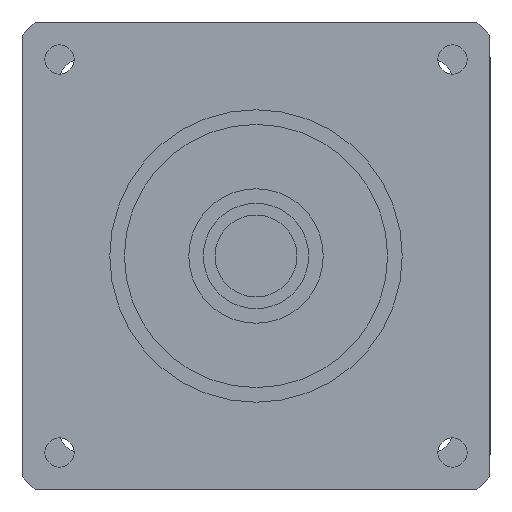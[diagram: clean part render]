
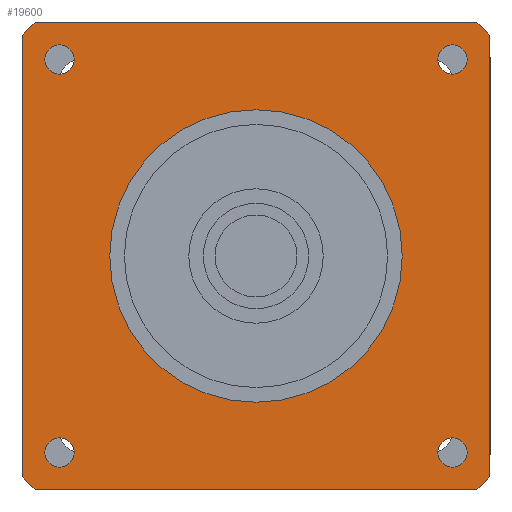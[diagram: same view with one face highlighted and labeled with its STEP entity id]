
A CAD part, left-side view. The second image highlights one B-rep face of the part: STEP entity #19600.
In plain terms, the highlighted planar face has unit normal (-1, 0, 0) as drawn and (0, 0, -1) by its records, which use the part's own axes.
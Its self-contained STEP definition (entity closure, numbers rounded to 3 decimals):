
#13830=CARTESIAN_POINT('',(-40.,-37.749,-42.));
#13840=VERTEX_POINT('',#13830);
#13890=CARTESIAN_POINT('',(-40.,40.,-42.));
#13900=DIRECTION('',(0.,-1.,0.));
#13910=VECTOR('',#13900,1000.);
#13920=LINE('',#13890,#13910);
#13930=CARTESIAN_POINT('',(-40.,37.749,-42.));
#13940=VERTEX_POINT('',#13930);
#13950=EDGE_CURVE('',#13940,#13840,#13920,.T.);
#18060=CARTESIAN_POINT('',(33.588,-31.088,-42.));
#18070=VERTEX_POINT('',#18060);
#18150=CARTESIAN_POINT('',(33.588,-36.088,-42.));
#18160=VERTEX_POINT('',#18150);
#18190=CARTESIAN_POINT('',(33.588,-33.588,-42.));
#18200=DIRECTION('',(0.,0.,1.));
#18210=DIRECTION('',(0.,1.,0.));
#18220=AXIS2_PLACEMENT_3D('',#18190,#18200,#18210);
#18230=CIRCLE('',#18220,2.5);
#18240=EDGE_CURVE('',#18160,#18070,#18230,.T.);
#18290=CARTESIAN_POINT('',(40.,-40.,-42.));
#18300=DIRECTION('',(0.,0.,1.));
#18310=DIRECTION('',(0.,1.,0.));
#18320=AXIS2_PLACEMENT_3D('',#18290,#18300,#18310);
#18330=PLANE('',#18320);
#18340=CARTESIAN_POINT('',(-33.588,-33.588,-42.));
#18350=DIRECTION('',(0.,0.,1.));
#18360=DIRECTION('',(0.,1.,0.));
#18370=AXIS2_PLACEMENT_3D('',#18340,#18350,#18360);
#18380=CIRCLE('',#18370,2.5);
#18390=CARTESIAN_POINT('',(-33.588,-31.088,-42.));
#18400=VERTEX_POINT('',#18390);
#18410=CARTESIAN_POINT('',(-33.588,-36.088,-42.));
#18420=VERTEX_POINT('',#18410);
#18430=EDGE_CURVE('',#18400,#18420,#18380,.T.);
#18440=ORIENTED_EDGE('',*,*,#18430,.T.);
#18450=EDGE_CURVE('',#18420,#18400,#18380,.T.);
#18460=ORIENTED_EDGE('',*,*,#18450,.T.);
#18470=EDGE_LOOP('',(#18460,#18440));
#18480=FACE_BOUND('',#18470,.T.);
#18490=CARTESIAN_POINT('',(33.588,33.588,-42.));
#18500=DIRECTION('',(0.,0.,1.));
#18510=DIRECTION('',(0.,1.,0.));
#18520=AXIS2_PLACEMENT_3D('',#18490,#18500,#18510);
#18530=CIRCLE('',#18520,2.5);
#18540=CARTESIAN_POINT('',(33.588,36.088,-42.));
#18550=VERTEX_POINT('',#18540);
#18560=CARTESIAN_POINT('',(33.588,31.088,-42.));
#18570=VERTEX_POINT('',#18560);
#18580=EDGE_CURVE('',#18550,#18570,#18530,.T.);
#18590=ORIENTED_EDGE('',*,*,#18580,.T.);
#18600=EDGE_CURVE('',#18570,#18550,#18530,.T.);
#18610=ORIENTED_EDGE('',*,*,#18600,.T.);
#18620=EDGE_LOOP('',(#18610,#18590));
#18630=FACE_BOUND('',#18620,.T.);
#18640=CARTESIAN_POINT('',(-33.588,33.588,-42.));
#18650=DIRECTION('',(0.,0.,1.));
#18660=DIRECTION('',(0.,1.,0.));
#18670=AXIS2_PLACEMENT_3D('',#18640,#18650,#18660);
#18680=CIRCLE('',#18670,2.5);
#18690=CARTESIAN_POINT('',(-33.588,36.088,-42.));
#18700=VERTEX_POINT('',#18690);
#18710=CARTESIAN_POINT('',(-33.588,31.088,-42.));
#18720=VERTEX_POINT('',#18710);
#18730=EDGE_CURVE('',#18700,#18720,#18680,.T.);
#18740=ORIENTED_EDGE('',*,*,#18730,.T.);
#18750=EDGE_CURVE('',#18720,#18700,#18680,.T.);
#18760=ORIENTED_EDGE('',*,*,#18750,.T.);
#18770=EDGE_LOOP('',(#18760,#18740));
#18780=FACE_BOUND('',#18770,.T.);
#18790=CARTESIAN_POINT('',(0.,0.,
-42.));
#18800=DIRECTION('',(0.,0.,1.));
#18810=DIRECTION('',(0.,-1.,0.));
#18820=AXIS2_PLACEMENT_3D('',#18790,#18800,#18810);
#18830=CIRCLE('',#18820,25.);
#18840=CARTESIAN_POINT('',(0.,-25.,-42.));
#18850=VERTEX_POINT('',#18840);
#18860=CARTESIAN_POINT('',(0.,25.,-42.));
#18870=VERTEX_POINT('',#18860);
#18880=EDGE_CURVE('',#18850,#18870,#18830,.T.);
#18890=ORIENTED_EDGE('',*,*,#18880,.T.);
#18900=EDGE_CURVE('',#18870,#18850,#18830,.T.);
#18910=ORIENTED_EDGE('',*,*,#18900,.T.);
#18920=EDGE_LOOP('',(#18910,#18890));
#18930=FACE_BOUND('',#18920,.T.);
#18940=EDGE_CURVE('',#18070,#18160,#18230,.T.);
#18950=ORIENTED_EDGE('',*,*,#18940,.T.);
#18960=ORIENTED_EDGE('',*,*,#18240,.T.);
#18970=EDGE_LOOP('',(#18960,#18950));
#18980=FACE_BOUND('',#18970,.T.);
#18990=CARTESIAN_POINT('',(0.,0.,
-42.));
#19000=DIRECTION('',(0.,0.,1.));
#19010=DIRECTION('',(0.,1.,0.));
#19020=AXIS2_PLACEMENT_3D('',#18990,#19000,#19010);
#19030=CIRCLE('',#19020,55.);
#19040=CARTESIAN_POINT('',(-37.749,40.,-42.));
#19050=VERTEX_POINT('',#19040);
#19060=EDGE_CURVE('',#19050,#13940,#19030,.T.);
#19070=ORIENTED_EDGE('',*,*,#19060,.F.);
#19080=ORIENTED_EDGE('',*,*,#13950,.F.);
#19090=CARTESIAN_POINT('',(0.,0.,
-42.));
#19100=DIRECTION('',(0.,0.,1.));
#19110=DIRECTION('',(0.,1.,0.));
#19120=AXIS2_PLACEMENT_3D('',#19090,#19100,#19110);
#19130=CIRCLE('',#19120,55.);
#19140=CARTESIAN_POINT('',(-37.749,-40.,-42.));
#19150=VERTEX_POINT('',#19140);
#19160=EDGE_CURVE('',#13840,#19150,#19130,.T.);
#19170=ORIENTED_EDGE('',*,*,#19160,.F.);
#19180=CARTESIAN_POINT('',(-40.,-40.,-42.));
#19190=DIRECTION('',(1.,0.,0.));
#19200=VECTOR('',#19190,1000.);
#19210=LINE('',#19180,#19200);
#19220=CARTESIAN_POINT('',(37.749,-40.,-42.));
#19230=VERTEX_POINT('',#19220);
#19240=EDGE_CURVE('',#19150,#19230,#19210,.T.);
#19250=ORIENTED_EDGE('',*,*,#19240,.F.);
#19260=CARTESIAN_POINT('',(0.,0.,
-42.));
#19270=DIRECTION('',(0.,0.,1.));
#19280=DIRECTION('',(0.,1.,0.));
#19290=AXIS2_PLACEMENT_3D('',#19260,#19270,#19280);
#19300=CIRCLE('',#19290,55.);
#19310=CARTESIAN_POINT('',(40.,-37.749,-42.));
#19320=VERTEX_POINT('',#19310);
#19330=EDGE_CURVE('',#19230,#19320,#19300,.T.);
#19340=ORIENTED_EDGE('',*,*,#19330,.F.);
#19350=CARTESIAN_POINT('',(40.,-40.,-42.));
#19360=DIRECTION('',(0.,1.,0.));
#19370=VECTOR('',#19360,1000.);
#19380=LINE('',#19350,#19370);
#19390=CARTESIAN_POINT('',(40.,37.749,-42.));
#19400=VERTEX_POINT('',#19390);
#19410=EDGE_CURVE('',#19320,#19400,#19380,.T.);
#19420=ORIENTED_EDGE('',*,*,#19410,.F.);
#19430=CARTESIAN_POINT('',(0.,0.,
-42.));
#19440=DIRECTION('',(0.,0.,1.));
#19450=DIRECTION('',(0.,1.,0.));
#19460=AXIS2_PLACEMENT_3D('',#19430,#19440,#19450);
#19470=CIRCLE('',#19460,55.);
#19480=CARTESIAN_POINT('',(37.749,40.,-42.));
#19490=VERTEX_POINT('',#19480);
#19500=EDGE_CURVE('',#19400,#19490,#19470,.T.);
#19510=ORIENTED_EDGE('',*,*,#19500,.F.);
#19520=CARTESIAN_POINT('',(40.,40.,-42.));
#19530=DIRECTION('',(-1.,0.,0.));
#19540=VECTOR('',#19530,1000.);
#19550=LINE('',#19520,#19540);
#19560=EDGE_CURVE('',#19490,#19050,#19550,.T.);
#19570=ORIENTED_EDGE('',*,*,#19560,.F.);
#19580=EDGE_LOOP('',(#19570,#19510,#19420,#19340,#19250,#19170,#19080,
#19070));
#19590=FACE_OUTER_BOUND('',#19580,.T.);
#19600=ADVANCED_FACE('',(#18480,#18630,#18780,#18930,#18980,#19590),
#18330,.F.);
